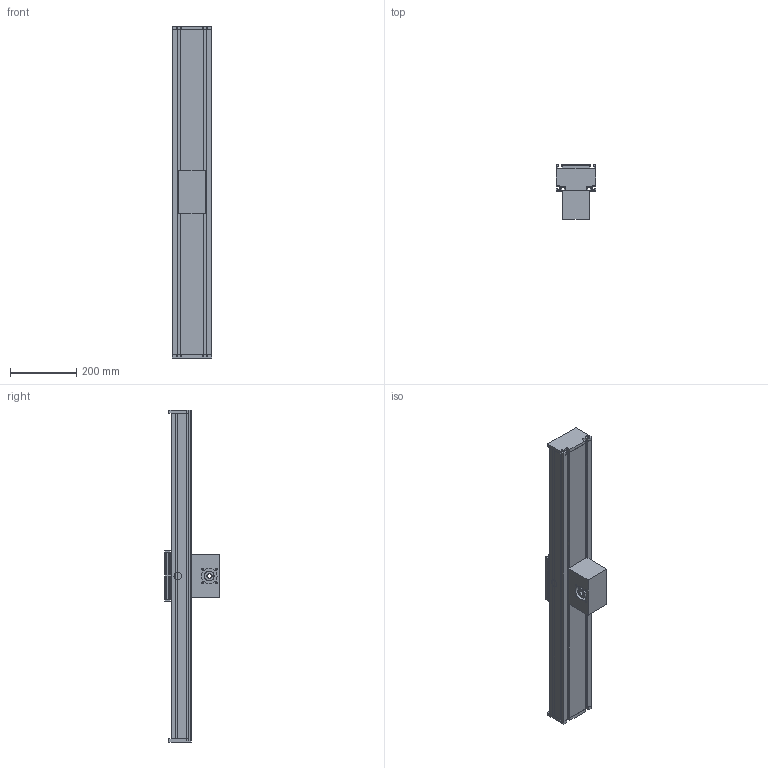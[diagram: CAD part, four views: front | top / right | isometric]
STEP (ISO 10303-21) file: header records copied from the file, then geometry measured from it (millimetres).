
FILE_DESCRIPTION (( 'STEP AP214' ), '1' );
FILE_NAME ('DSZS120.STEP', '2022-07-22T10:24:54', ( '' ), ( '' ), 'SwSTEP 2.0', 'SolidWorks 2020', '' );
FILE_SCHEMA (( 'AUTOMOTIVE_DESIGN' ));
Length unit declared in the file: millimetre
Products named in the file (5): DSZS120; carriage^DSZS120_carriage version 0; end plate^DSZS120_0; timing belt reverse unit^DSZS120_coupling claw pos.1; profile^DSZS120_standard
Assembly tree (5 placements, depth 2):
  DSZS120
    profile^DSZS120_standard
    carriage^DSZS120_carriage version 0
    timing belt reverse unit^DSZS120_coupling claw pos.1
    end plate^DSZS120_0  x2
Bounding box: 120.2 x 164 x 1000 mm (x, y, z)
Volume: 4665515.9 mm3; surface area: 1345233.9 mm2
Topology: 14 solids, 14 shells, 409 faces, 1092 edges, 714 vertices
Faces by surface type: plane 299, cylinder 100, bspline 8, cone 2
Entity records: 11867 total; most frequent: CARTESIAN_POINT 2349, ORIENTED_EDGE 1928, DIRECTION 1844, EDGE_CURVE 964, LINE 786, VECTOR 786, VERTEX_POINT 634, AXIS2_PLACEMENT_3D 529
